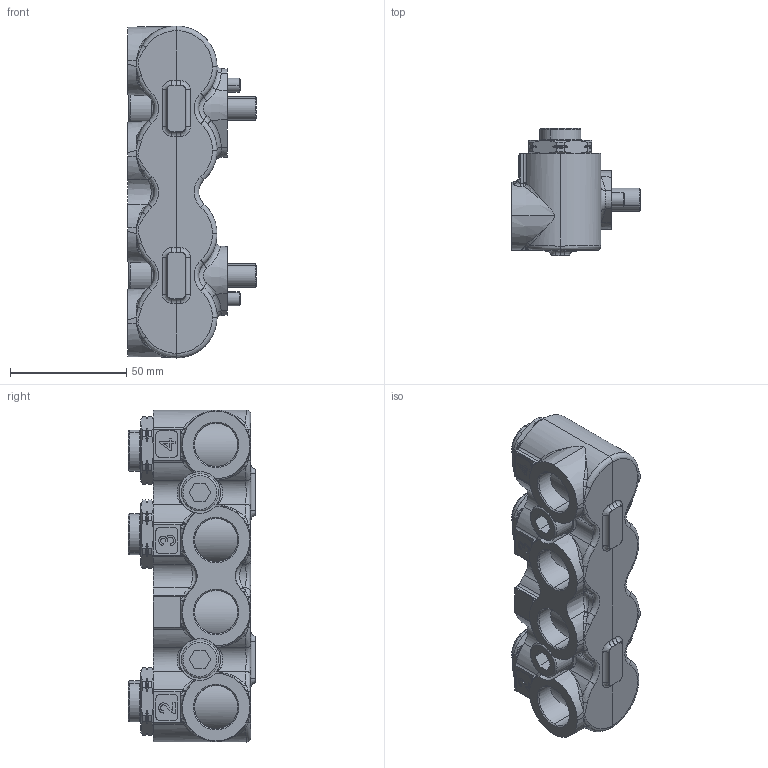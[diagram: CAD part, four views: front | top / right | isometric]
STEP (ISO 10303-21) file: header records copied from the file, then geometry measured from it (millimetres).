
FILE_DESCRIPTION (( 'STEP AP214' ), '1' );
FILE_NAME ('P7319-3B.STEP', '2023-05-25T10:05:34', ( '' ), ( '' ), 'SwSTEP 2.0', 'SolidWorks 2021', '' );
FILE_SCHEMA (( 'AUTOMOTIVE_DESIGN' ));
Length unit declared in the file: millimetre
Products named in the file (1): P7319-3B
Bounding box: 55.5 x 54.8 x 143 mm (x, y, z)
Volume: 214267.8 mm3; surface area: 49008.7 mm2
Topology: 14 solids, 14 shells, 721 faces, 1806 edges, 1133 vertices
Faces by surface type: cylinder 192, bspline 167, plane 157, cone 141, torus 64
Entity records: 38283 total; most frequent: CARTESIAN_POINT 14475, ORIENTED_EDGE 3604, DIRECTION 2895, EDGE_CURVE 1802, AXIS2_PLACEMENT_3D 1169, VERTEX_POINT 1133, EDGE_LOOP 749, UNCERTAINTY_MEASURE_WITH_UNIT 737
